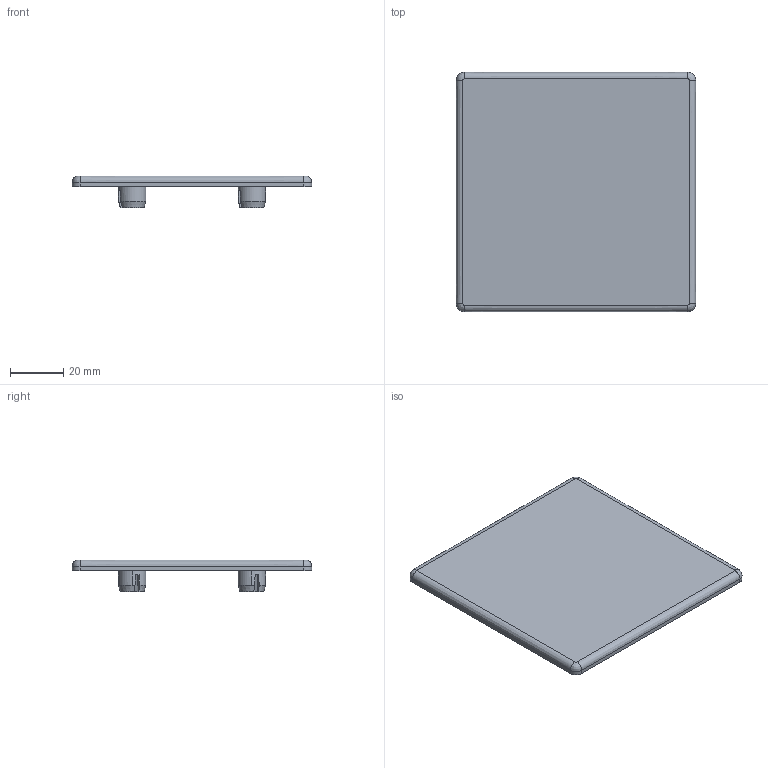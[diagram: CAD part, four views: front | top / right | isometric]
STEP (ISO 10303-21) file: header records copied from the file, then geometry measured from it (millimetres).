
FILE_DESCRIPTION (( 'STEP AP203' ), '1' );
FILE_NAME ('084.201.040.STEP', '2021-04-01T14:13:07', ( '' ), ( '' ), 'SwSTEP 2.0', 'SolidWorks 2018', '' );
FILE_SCHEMA (( 'CONFIG_CONTROL_DESIGN' ));
Length unit declared in the file: millimetre
Products named in the file (1): 084.201.040
Bounding box: 90 x 90 x 12 mm (x, y, z)
Volume: 22423.9 mm3; surface area: 19676.4 mm2
Topology: 1 solids, 1 shells, 316 faces, 849 edges, 554 vertices
Faces by surface type: plane 227, cylinder 32, cone 29, bspline 20, torus 8
Entity records: 10600 total; most frequent: CARTESIAN_POINT 2796, ORIENTED_EDGE 1698, DIRECTION 1493, EDGE_CURVE 849, LINE 607, VECTOR 607, VERTEX_POINT 554, AXIS2_PLACEMENT_3D 443
